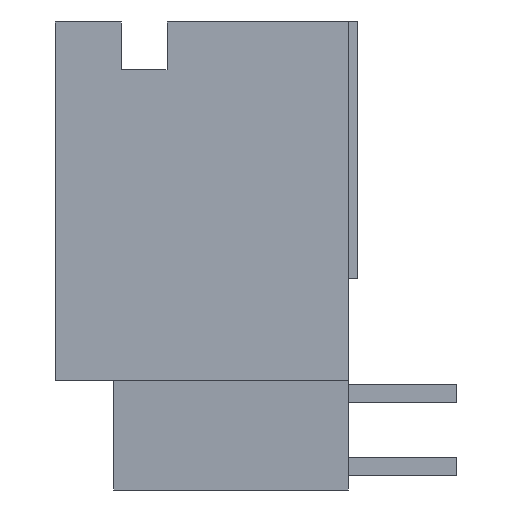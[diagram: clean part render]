
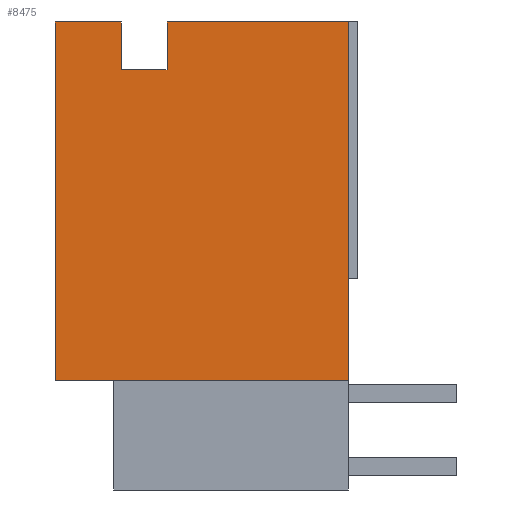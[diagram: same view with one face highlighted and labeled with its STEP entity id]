
A CAD part, left-side view. The second image highlights one B-rep face of the part: STEP entity #8475.
In plain terms, the highlighted planar face has unit normal (-1, 0, 0).
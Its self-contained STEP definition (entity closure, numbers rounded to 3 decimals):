
#76=DIRECTION('',(0.,-1.,0.));
#77=VECTOR('',#76,2.286);
#78=CARTESIAN_POINT('',(-20.066,5.08,0.));
#79=LINE('',#78,#77);
#148=DIRECTION('',(0.,-1.,0.));
#149=VECTOR('',#148,6.287);
#150=CARTESIAN_POINT('',(-20.066,1.207,0.));
#151=LINE('',#150,#149);
#208=DIRECTION('',(0.,0.,-1.));
#209=VECTOR('',#208,1.651);
#210=CARTESIAN_POINT('',(-20.066,1.207,0.));
#211=LINE('',#210,#209);
#212=DIRECTION('',(0.,0.,-1.));
#213=VECTOR('',#212,12.421);
#214=CARTESIAN_POINT('',(-20.066,5.08,0.));
#215=LINE('',#214,#213);
#216=DIRECTION('',(0.,0.,-1.));
#217=VECTOR('',#216,1.651);
#218=CARTESIAN_POINT('',(-20.066,2.794,0.));
#219=LINE('',#218,#217);
#220=DIRECTION('',(0.,1.,0.));
#221=VECTOR('',#220,1.588);
#222=CARTESIAN_POINT('',(-20.066,1.207,-1.651));
#223=LINE('',#222,#221);
#440=DIRECTION('',(0.,0.,-1.));
#441=VECTOR('',#440,12.421);
#442=CARTESIAN_POINT('',(-20.066,-5.08,0.));
#443=LINE('',#442,#441);
#738=DIRECTION('',(0.,-1.,0.));
#739=VECTOR('',#738,10.16);
#740=CARTESIAN_POINT('',(-20.066,5.08,-12.421));
#741=LINE('',#740,#739);
#6267=CARTESIAN_POINT('',(-20.066,5.08,0.));
#6269=VERTEX_POINT('',#6267);
#6270=CARTESIAN_POINT('',(-20.066,5.08,-12.421));
#6271=CARTESIAN_POINT('',(-20.066,-5.08,-12.421));
#6272=VERTEX_POINT('',#6270);
#6273=VERTEX_POINT('',#6271);
#6278=CARTESIAN_POINT('',(-20.066,-5.08,0.));
#6279=VERTEX_POINT('',#6278);
#6302=CARTESIAN_POINT('',(-20.066,1.207,0.));
#6304=VERTEX_POINT('',#6302);
#6310=CARTESIAN_POINT('',(-20.066,2.794,0.));
#6312=VERTEX_POINT('',#6310);
#6318=CARTESIAN_POINT('',(-20.066,1.207,-1.651));
#6319=VERTEX_POINT('',#6318);
#6320=CARTESIAN_POINT('',(-20.066,2.794,-1.651));
#6321=VERTEX_POINT('',#6320);
#8456=CARTESIAN_POINT('',(-20.066,5.08,0.));
#8457=DIRECTION('',(-1.,0.,0.));
#8458=DIRECTION('',(0.,-1.,0.));
#8459=AXIS2_PLACEMENT_3D('',#8456,#8457,#8458);
#8460=PLANE('',#8459);
#8461=ORIENTED_EDGE('',*,*,#8429,.F.);
#8462=ORIENTED_EDGE('',*,*,#8337,.T.);
#8464=ORIENTED_EDGE('',*,*,#8463,.T.);
#8466=ORIENTED_EDGE('',*,*,#8465,.F.);
#8468=ORIENTED_EDGE('',*,*,#8467,.F.);
#8469=ORIENTED_EDGE('',*,*,#8293,.T.);
#8470=ORIENTED_EDGE('',*,*,#8372,.T.);
#8472=ORIENTED_EDGE('',*,*,#8471,.F.);
#8473=EDGE_LOOP('',(#8461,#8462,#8464,#8466,#8468,#8469,#8470,#8472));
#8474=FACE_OUTER_BOUND('',#8473,.F.);
#8475=ADVANCED_FACE('',(#8474),#8460,.T.);
#8293=EDGE_CURVE('',#6269,#6312,#79,.T.);
#8337=EDGE_CURVE('',#6304,#6279,#151,.T.);
#8372=EDGE_CURVE('',#6312,#6321,#219,.T.);
#8429=EDGE_CURVE('',#6304,#6319,#211,.T.);
#8463=EDGE_CURVE('',#6279,#6273,#443,.T.);
#8465=EDGE_CURVE('',#6272,#6273,#741,.T.);
#8467=EDGE_CURVE('',#6269,#6272,#215,.T.);
#8471=EDGE_CURVE('',#6319,#6321,#223,.T.);
